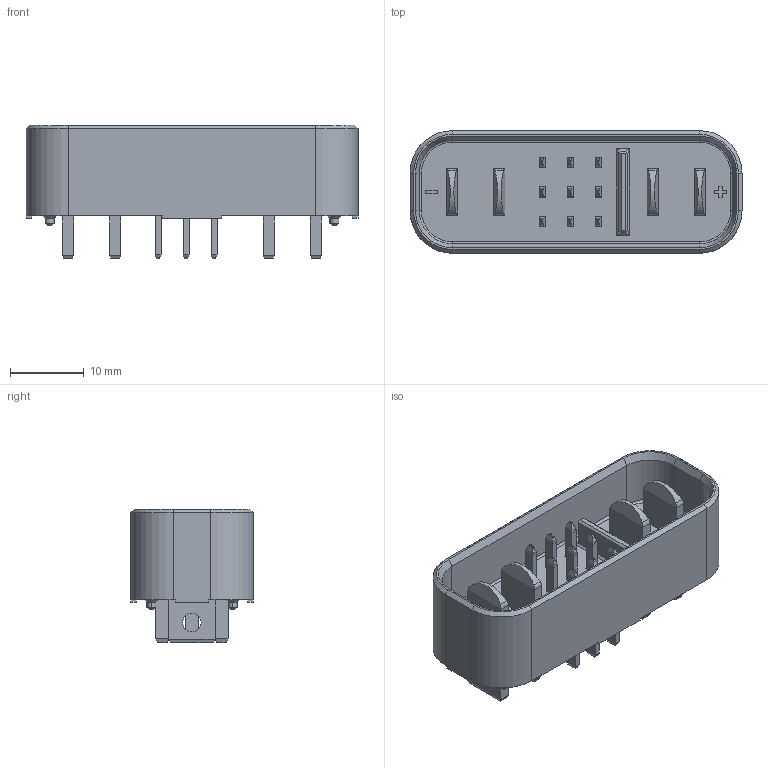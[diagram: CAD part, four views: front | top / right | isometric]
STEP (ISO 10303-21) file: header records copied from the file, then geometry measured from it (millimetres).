
FILE_DESCRIPTION((''),'2;1');
FILE_NAME('4P9S_MALE_BTB_ASM','2024-11-20T',('c3952'),(''),'CREO PARAMETRIC BY PTC INC, 2014500','CREO PARAMETRIC BY PTC INC, 2014500','');
FILE_SCHEMA(('AUTOMOTIVE_DESIGN { 1 0 10303 214 1 1 1 1 }'));
Length unit declared in the file: millimetre
Products named in the file (4): T1-4P9S-MALE; T5-DA-M; T5_DA_M-1; 4P9S_MALE_BTB_ASM
Assembly tree (14 placements, depth 2):
  4P9S_MALE_BTB_ASM
    T1-4P9S-MALE
    T5-DA-M  x9
    T5_DA_M-1  x4
Bounding box: 45 x 16.6 x 18.1 mm (x, y, z)
Volume: 4376.7 mm3; surface area: 6013.2 mm2
Topology: 14 solids, 14 shells, 1019 faces, 2718 edges, 1736 vertices
Faces by surface type: plane 703, cylinder 288, cone 24, torus 4
Entity records: 17089 total; most frequent: CARTESIAN_POINT 2430, ORIENTED_EDGE 2292, DIRECTION 2182, PRESENTATION_STYLE_ASSIGNMENT 1149, STYLED_ITEM 1149, CURVE_STYLE 1146, EDGE_CURVE 1146, VECTOR 976
